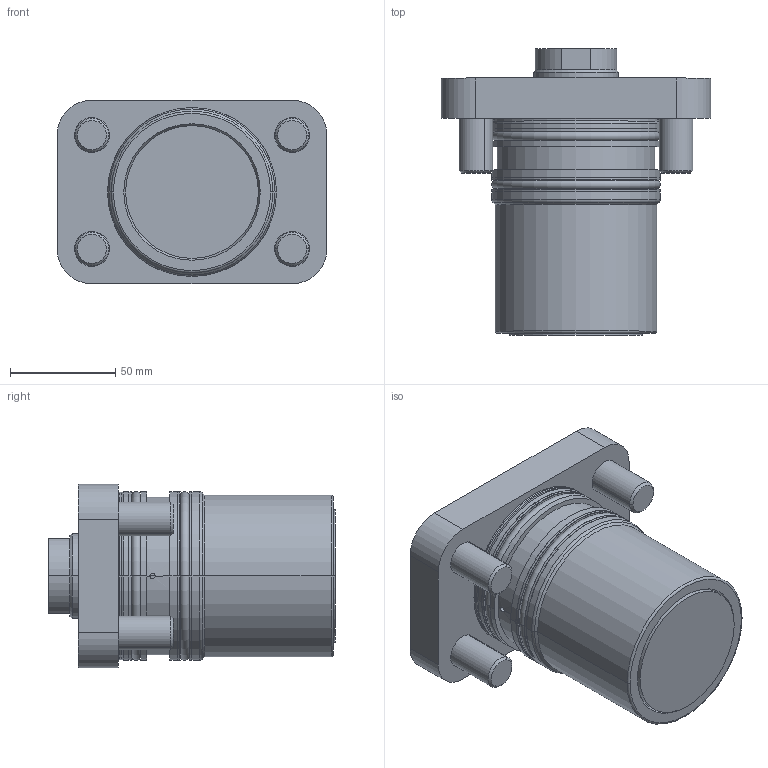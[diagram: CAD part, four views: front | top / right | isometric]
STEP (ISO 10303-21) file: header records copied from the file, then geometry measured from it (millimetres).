
FILE_DESCRIPTION (( 'STEP AP203' ), '1' );
FILE_NAME ('GERMA_Einbauzylinder_210-063-063.STEP', '2023-09-07T06:53:07', ( '' ), ( '' ), 'SwSTEP 2.0', 'SolidWorks 2016', '' );
FILE_SCHEMA (( 'CONFIG_CONTROL_DESIGN' ));
Length unit declared in the file: millimetre
Products named in the file (4): DIN7984-M16x35; Kolben 60x-063_Kolben DU.63-Hub63-IG; Gehaeuse 210-063_Gehaeuse 210-063-063; GERMA_Einbauzylinder_210-063-063
Assembly tree (6 placements, depth 2):
  GERMA_Einbauzylinder_210-063-063
    Gehaeuse 210-063_Gehaeuse 210-063-063
    Kolben 60x-063_Kolben DU.63-Hub63-IG
    DIN7984-M16x35  x4
Bounding box: 128 x 136 x 87 mm (x, y, z)
Volume: 579035.2 mm3; surface area: 122821.8 mm2
Topology: 6 solids, 6 shells, 374 faces, 893 edges, 558 vertices
Faces by surface type: plane 163, bspline 84, cylinder 75, cone 30, torus 22
Entity records: 12976 total; most frequent: CARTESIAN_POINT 5900, ORIENTED_EDGE 1430, DIRECTION 1218, EDGE_CURVE 715, VERTEX_POINT 459, AXIS2_PLACEMENT_3D 421, VECTOR 376, LINE 376
